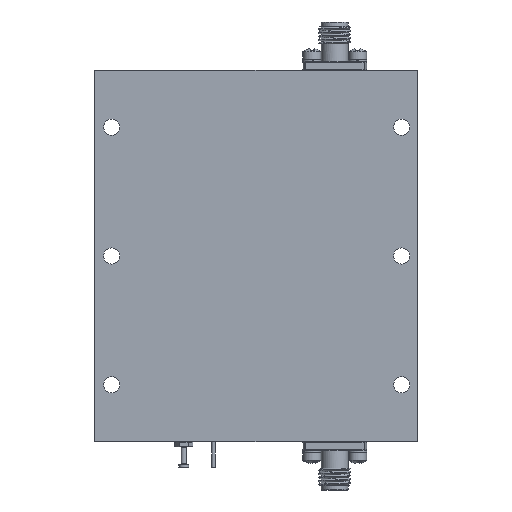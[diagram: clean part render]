
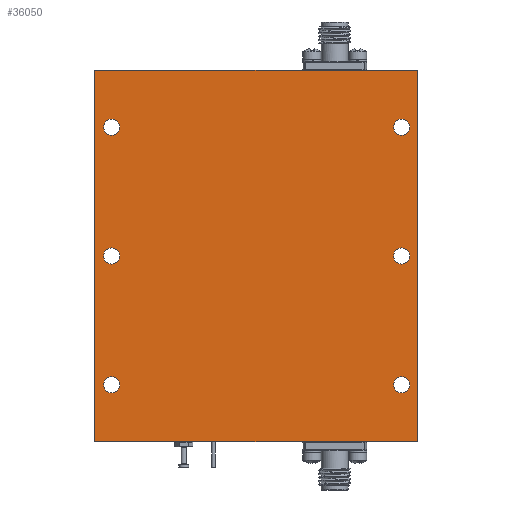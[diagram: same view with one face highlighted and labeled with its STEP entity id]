
A CAD part, front view. The second image highlights one B-rep face of the part: STEP entity #36050.
In plain terms, the highlighted planar face has unit normal (0, -1, 0).
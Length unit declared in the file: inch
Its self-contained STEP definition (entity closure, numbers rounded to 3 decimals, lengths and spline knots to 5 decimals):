
#620 = CARTESIAN_POINT ( 'NONE',  ( 35.25282, 39.43201, 40.43546 ) ) ;
#1048 = LINE ( 'NONE', #14865, #17655 ) ;
#1341 = VERTEX_POINT ( 'NONE', #8948 ) ;
#2506 = ORIENTED_EDGE ( 'NONE', *, *, #36728, .F. ) ;
#3352 = VERTEX_POINT ( 'NONE', #34160 ) ;
#3556 = CARTESIAN_POINT ( 'NONE',  ( 37.63282, 39.43201, 40.93796 ) ) ;
#3666 = CARTESIAN_POINT ( 'NONE',  ( 35.38282, 39.43201, 41.87546 ) ) ;
#4286 = CIRCLE ( 'NONE', #15310, 0.0625 ) ;
#4654 = CARTESIAN_POINT ( 'NONE',  ( 35.38282, 39.43201, 42.87546 ) ) ;
#4779 = EDGE_LOOP ( 'NONE', ( #34879 ) ) ;
#4838 = VECTOR ( 'NONE', #52563, 39.37008 ) ;
#4864 = CARTESIAN_POINT ( 'NONE',  ( 36.50282, 39.43201, 41.87546 ) ) ;
#4938 = VERTEX_POINT ( 'NONE', #30694 ) ;
#5101 = DIRECTION ( 'NONE',  ( 0., 1., 0. ) ) ;
#7046 = DIRECTION ( 'NONE',  ( 0., 0., 1. ) ) ;
#8143 = DIRECTION ( 'NONE',  ( 0., 0., 1. ) ) ;
#8285 = DIRECTION ( 'NONE',  ( 0., 0., 1. ) ) ;
#8631 = FACE_BOUND ( 'NONE', #28091, .T. ) ;
#8867 = EDGE_CURVE ( 'NONE', #25182, #25182, #25330, .T. ) ;
#8929 = FACE_BOUND ( 'NONE', #24354, .T. ) ;
#8948 = CARTESIAN_POINT ( 'NONE',  ( 35.38282, 39.43201, 41.93796 ) ) ;
#9489 = CARTESIAN_POINT ( 'NONE',  ( 35.25282, 39.43201, 40.43546 ) ) ;
#9932 = EDGE_CURVE ( 'NONE', #34935, #34935, #36504, .T. ) ;
#10584 = DIRECTION ( 'NONE',  ( 0., 0., 1. ) ) ;
#11295 = VERTEX_POINT ( 'NONE', #16170 ) ;
#11664 = AXIS2_PLACEMENT_3D ( 'NONE', #46102, #15547, #28777 ) ;
#11686 = CARTESIAN_POINT ( 'NONE',  ( 37.63282, 39.43201, 40.87546 ) ) ;
#12807 = DIRECTION ( 'NONE',  ( 0., 1., 0. ) ) ;
#13237 = FACE_BOUND ( 'NONE', #15746, .T. ) ;
#13339 = AXIS2_PLACEMENT_3D ( 'NONE', #4654, #56551, #8143 ) ;
#14865 = CARTESIAN_POINT ( 'NONE',  ( 37.75282, 39.43201, 40.43546 ) ) ;
#15029 = AXIS2_PLACEMENT_3D ( 'NONE', #3666, #34206, #8285 ) ;
#15310 = AXIS2_PLACEMENT_3D ( 'NONE', #34580, #18157, #47817 ) ;
#15547 = DIRECTION ( 'NONE',  ( 0., 1., 0. ) ) ;
#15746 = EDGE_LOOP ( 'NONE', ( #19291 ) ) ;
#16170 = CARTESIAN_POINT ( 'NONE',  ( 37.63282, 39.43201, 41.93796 ) ) ;
#16881 = CARTESIAN_POINT ( 'NONE',  ( 35.38282, 39.43201, 42.93796 ) ) ;
#17563 = FACE_BOUND ( 'NONE', #22260, .T. ) ;
#17655 = VECTOR ( 'NONE', #32189, 39.37008 ) ;
#18157 = DIRECTION ( 'NONE',  ( 0., 1., 0. ) ) ;
#18436 = PLANE ( 'NONE',  #46482 ) ;
#18520 = CARTESIAN_POINT ( 'NONE',  ( 35.38282, 39.43201, 40.93796 ) ) ;
#18915 = ORIENTED_EDGE ( 'NONE', *, *, #8867, .T. ) ;
#19083 = DIRECTION ( 'NONE',  ( 1., 0., 0. ) ) ;
#19291 = ORIENTED_EDGE ( 'NONE', *, *, #45760, .T. ) ;
#19961 = ORIENTED_EDGE ( 'NONE', *, *, #28497, .T. ) ;
#22260 = EDGE_LOOP ( 'NONE', ( #18915 ) ) ;
#23019 = DIRECTION ( 'NONE',  ( 0., 1., 0. ) ) ;
#23259 = EDGE_LOOP ( 'NONE', ( #28441, #33968, #32621, #2506 ) ) ;
#23688 = DIRECTION ( 'NONE',  ( -1., 0., 0. ) ) ;
#24354 = EDGE_LOOP ( 'NONE', ( #25864 ) ) ;
#25182 = VERTEX_POINT ( 'NONE', #3556 ) ;
#25330 = CIRCLE ( 'NONE', #56577, 0.0625 ) ;
#25788 = LINE ( 'NONE', #51708, #4838 ) ;
#25864 = ORIENTED_EDGE ( 'NONE', *, *, #9932, .T. ) ;
#26526 = FACE_OUTER_BOUND ( 'NONE', #23259, .T. ) ;
#27669 = CARTESIAN_POINT ( 'NONE',  ( 35.25282, 39.43201, 43.31546 ) ) ;
#27970 = LINE ( 'NONE', #27669, #42944 ) ;
#28091 = EDGE_LOOP ( 'NONE', ( #30224 ) ) ;
#28441 = ORIENTED_EDGE ( 'NONE', *, *, #29883, .F. ) ;
#28457 = EDGE_CURVE ( 'NONE', #29083, #4938, #1048, .T. ) ;
#28497 = EDGE_CURVE ( 'NONE', #11295, #11295, #42363, .T. ) ;
#28777 = DIRECTION ( 'NONE',  ( 0., 0., 1. ) ) ;
#29083 = VERTEX_POINT ( 'NONE', #45209 ) ;
#29883 = EDGE_CURVE ( 'NONE', #30760, #37441, #25788, .T. ) ;
#30224 = ORIENTED_EDGE ( 'NONE', *, *, #44705, .T. ) ;
#30694 = CARTESIAN_POINT ( 'NONE',  ( 37.75282, 39.43201, 40.43546 ) ) ;
#30721 = CARTESIAN_POINT ( 'NONE',  ( 35.25282, 39.43201, 43.31546 ) ) ;
#30760 = VERTEX_POINT ( 'NONE', #9489 ) ;
#30921 = EDGE_CURVE ( 'NONE', #1341, #1341, #38955, .T. ) ;
#32189 = DIRECTION ( 'NONE',  ( 0., 0., -1. ) ) ;
#32306 = LINE ( 'NONE', #620, #55049 ) ;
#32621 = ORIENTED_EDGE ( 'NONE', *, *, #28457, .F. ) ;
#33968 = ORIENTED_EDGE ( 'NONE', *, *, #50379, .F. ) ;
#34160 = CARTESIAN_POINT ( 'NONE',  ( 37.63282, 39.43201, 42.93796 ) ) ;
#34206 = DIRECTION ( 'NONE',  ( 0., 1., 0. ) ) ;
#34580 = CARTESIAN_POINT ( 'NONE',  ( 37.63282, 39.43201, 42.87546 ) ) ;
#34732 = VERTEX_POINT ( 'NONE', #16881 ) ;
#34879 = ORIENTED_EDGE ( 'NONE', *, *, #30921, .T. ) ;
#34935 = VERTEX_POINT ( 'NONE', #18520 ) ;
#35120 = FACE_BOUND ( 'NONE', #54193, .T. ) ;
#36050 = ADVANCED_FACE ( 'NONE', ( #48081, #8631, #17563, #35120, #13237, #8929, #26526 ), #18436, .F. ) ;
#36504 = CIRCLE ( 'NONE', #11664, 0.0625 ) ;
#36728 = EDGE_CURVE ( 'NONE', #37441, #29083, #27970, .T. ) ;
#37441 = VERTEX_POINT ( 'NONE', #30721 ) ;
#38955 = CIRCLE ( 'NONE', #15029, 0.0625 ) ;
#41100 = CARTESIAN_POINT ( 'NONE',  ( 37.63282, 39.43201, 41.87546 ) ) ;
#41165 = DIRECTION ( 'NONE',  ( 0., 0., 1. ) ) ;
#42363 = CIRCLE ( 'NONE', #54376, 0.0625 ) ;
#42944 = VECTOR ( 'NONE', #19083, 39.37008 ) ;
#44705 = EDGE_CURVE ( 'NONE', #34732, #34732, #47347, .T. ) ;
#45209 = CARTESIAN_POINT ( 'NONE',  ( 37.75282, 39.43201, 43.31546 ) ) ;
#45760 = EDGE_CURVE ( 'NONE', #3352, #3352, #4286, .T. ) ;
#46102 = CARTESIAN_POINT ( 'NONE',  ( 35.38282, 39.43201, 40.87546 ) ) ;
#46482 = AXIS2_PLACEMENT_3D ( 'NONE', #4864, #23019, #41165 ) ;
#47347 = CIRCLE ( 'NONE', #13339, 0.0625 ) ;
#47817 = DIRECTION ( 'NONE',  ( 0., 0., 1. ) ) ;
#48081 = FACE_BOUND ( 'NONE', #4779, .T. ) ;
#50379 = EDGE_CURVE ( 'NONE', #4938, #30760, #32306, .T. ) ;
#51708 = CARTESIAN_POINT ( 'NONE',  ( 35.25282, 39.43201, 40.43546 ) ) ;
#52563 = DIRECTION ( 'NONE',  ( 0., 0., 1. ) ) ;
#54193 = EDGE_LOOP ( 'NONE', ( #19961 ) ) ;
#54376 = AXIS2_PLACEMENT_3D ( 'NONE', #41100, #5101, #10584 ) ;
#55049 = VECTOR ( 'NONE', #23688, 39.37008 ) ;
#56551 = DIRECTION ( 'NONE',  ( 0., 1., 0. ) ) ;
#56577 = AXIS2_PLACEMENT_3D ( 'NONE', #11686, #12807, #7046 ) ;
